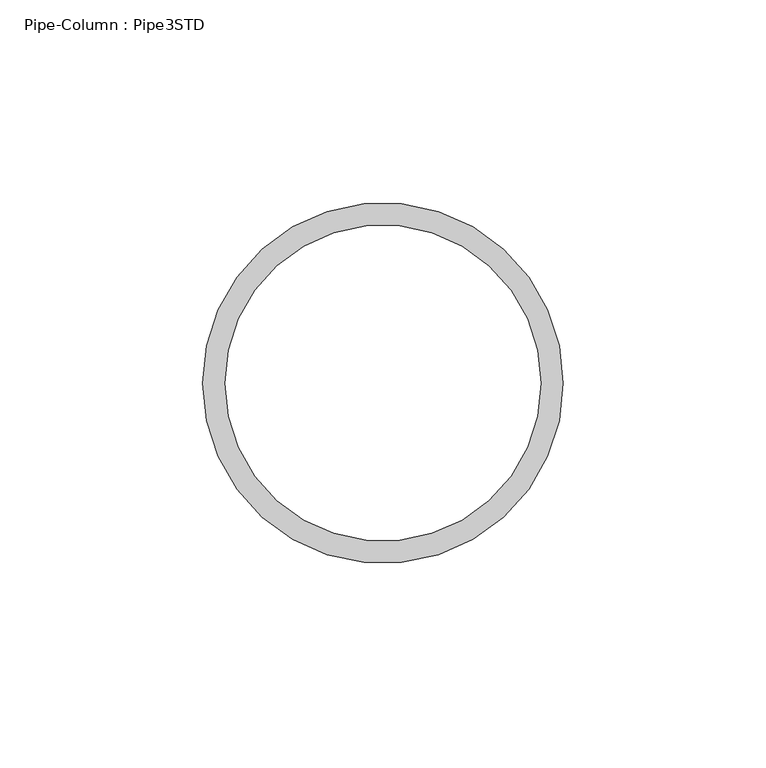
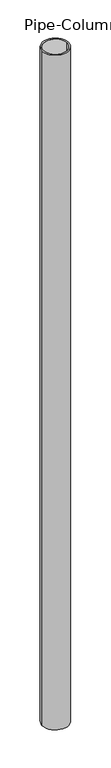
"""IFC4 building model written with IfcOpenShell, lengths in millimetres: column geometry, Pipe-Column : Pipe3STD."""

from ifc_helpers import new_model, si_unit, point, frame, origin, origin_2d, place, context, project, spatial, circle_curve, trimmed, segment, composite_curve, outline, extrude, source, transform, mapped, element, save


def pipe_column_pipe3std_d86ad78e(model_context):
    return source(origin(), model_context, "Body", "SweptSolid", [
        extrude(outline(composite_curve([segment(trimmed(circle_curve(origin_2d(), 44.45), [point((-44.45, 0.0))], [point((44.45, 0.0))], False, "CARTESIAN"), True, "CONTINUOUS"), segment(trimmed(circle_curve(origin_2d(), 44.45), [point((44.45, 0.0))], [point((-44.45, 0.0))], False, "CARTESIAN"), True, "CONTINUOUS")], self_intersect=False), holes=[composite_curve([segment(trimmed(circle_curve(origin_2d(), 38.9636), [point((-38.9636, 0.0))], [point((38.9636, 0.0))], True, "CARTESIAN"), True, "CONTINUOUS"), segment(trimmed(circle_curve(origin_2d(), 38.9636), [point((38.9636, 0.0))], [point((-38.9636, 0.0))], True, "CARTESIAN"), True, "CONTINUOUS")], self_intersect=False)]), frame((0.0, 0.0, -1758.95), z_axis=(0.0, 0.0, 1.0), x_axis=(1.0, 0.0, 0.0)), (0.0, 0.0, 1.0), 2414.7859375),
    ])


if __name__ == "__main__":
    model = new_model("IFC4")
    model_context = context("Model", 3, world=origin())
    ifc_project = project(units=[si_unit("LENGTHUNIT", "METRE", prefix="MILLI")], contexts=[model_context])
    site = spatial("IfcSite", under=ifc_project)
    building = spatial("IfcBuilding", under=site)
    placement = place(None, origin())
    pipe_column_pipe3std_shape = pipe_column_pipe3std_d86ad78e(model_context)
    element("IfcColumn", 1, ObjectType="Pipe-Column : Pipe3STD", at=placement, inside=building, context=model_context, shape_type="MappedRepresentation", body=[
        mapped(pipe_column_pipe3std_shape, transform((0.0, 0.0, 0.0), x_axis=(1.0, 0.0, 0.0), y_axis=(0.0, 1.0, 0.0), z_axis=(0.0, 0.0, 1.0))),
    ])
    save(model, "model.ifc")
